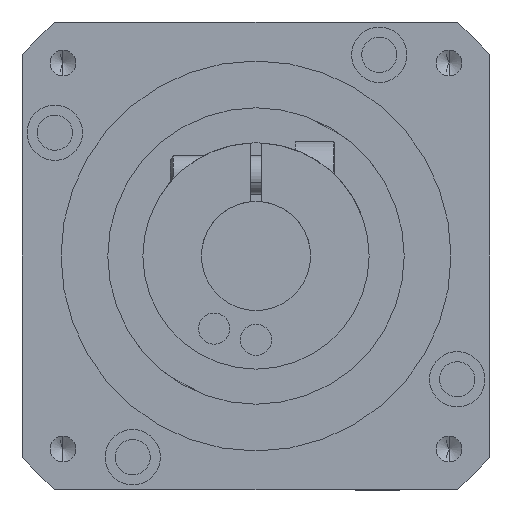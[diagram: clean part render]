
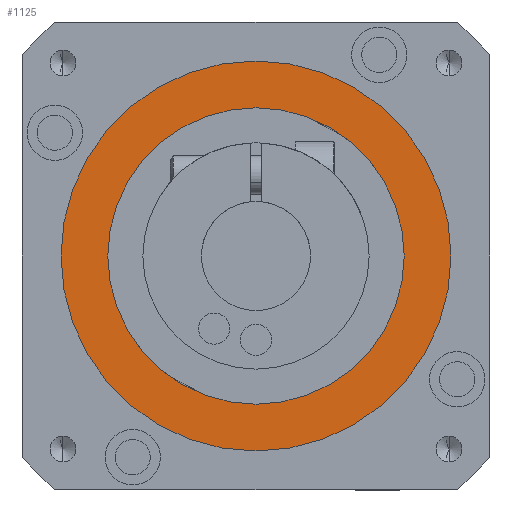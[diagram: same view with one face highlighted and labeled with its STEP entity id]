
A CAD part, front view. The second image highlights one B-rep face of the part: STEP entity #1125.
In plain terms, the highlighted planar face has unit normal (0, -1, 0).
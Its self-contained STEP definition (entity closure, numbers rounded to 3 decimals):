
#330 = AXIS2_PLACEMENT_3D ( 'NONE', #5792, #7055, #1237 ) ;
#465 = EDGE_CURVE ( 'NONE', #6485, #6586, #4007, .T. ) ;
#560 = CARTESIAN_POINT ( 'NONE',  ( 0., -36., 0. ) ) ;
#858 = DIRECTION ( 'NONE',  ( 0., 1., 0. ) ) ;
#1032 = AXIS2_PLACEMENT_3D ( 'NONE', #2845, #4142, #3532 ) ;
#1125 = ADVANCED_FACE ( 'NONE', ( #8337, #3181 ), #8429, .F. ) ;
#1237 = DIRECTION ( 'NONE',  ( 0., 0., 1. ) ) ;
#1263 = EDGE_LOOP ( 'NONE', ( #6752, #5246 ) ) ;
#1543 = DIRECTION ( 'NONE',  ( 0., -1., 0. ) ) ;
#1899 = AXIS2_PLACEMENT_3D ( 'NONE', #560, #4600, #2560 ) ;
#2020 = CIRCLE ( 'NONE', #2580, 19. ) ;
#2363 = VERTEX_POINT ( 'NONE', #6364 ) ;
#2560 = DIRECTION ( 'NONE',  ( 0., 0., 1. ) ) ;
#2580 = AXIS2_PLACEMENT_3D ( 'NONE', #2792, #858, #7334 ) ;
#2792 = CARTESIAN_POINT ( 'NONE',  ( 0., -36., 0. ) ) ;
#2845 = CARTESIAN_POINT ( 'NONE',  ( 0., -36., 0. ) ) ;
#2890 = CIRCLE ( 'NONE', #1899, 19. ) ;
#3018 = AXIS2_PLACEMENT_3D ( 'NONE', #3590, #1543, #4246 ) ;
#3181 = FACE_OUTER_BOUND ( 'NONE', #4129, .T. ) ;
#3532 = DIRECTION ( 'NONE',  ( 0., 0., 1. ) ) ;
#3590 = CARTESIAN_POINT ( 'NONE',  ( 0., -36., 0. ) ) ;
#4007 = CIRCLE ( 'NONE', #1032, 25. ) ;
#4129 = EDGE_LOOP ( 'NONE', ( #7643, #5586 ) ) ;
#4142 = DIRECTION ( 'NONE',  ( 0., -1., 0. ) ) ;
#4246 = DIRECTION ( 'NONE',  ( 0., 0., 1. ) ) ;
#4376 = VERTEX_POINT ( 'NONE', #8412 ) ;
#4600 = DIRECTION ( 'NONE',  ( 0., 1., 0. ) ) ;
#5246 = ORIENTED_EDGE ( 'NONE', *, *, #6677, .T. ) ;
#5499 = CIRCLE ( 'NONE', #3018, 25. ) ;
#5586 = ORIENTED_EDGE ( 'NONE', *, *, #7567, .T. ) ;
#5792 = CARTESIAN_POINT ( 'NONE',  ( 25., -36., 0. ) ) ;
#6364 = CARTESIAN_POINT ( 'NONE',  ( 0., -36., -19. ) ) ;
#6485 = VERTEX_POINT ( 'NONE', #7538 ) ;
#6586 = VERTEX_POINT ( 'NONE', #6994 ) ;
#6677 = EDGE_CURVE ( 'NONE', #2363, #4376, #2890, .T. ) ;
#6752 = ORIENTED_EDGE ( 'NONE', *, *, #7460, .T. ) ;
#6994 = CARTESIAN_POINT ( 'NONE',  ( 0., -36., -25. ) ) ;
#7055 = DIRECTION ( 'NONE',  ( 0., 1., 0. ) ) ;
#7334 = DIRECTION ( 'NONE',  ( 0., 0., 1. ) ) ;
#7460 = EDGE_CURVE ( 'NONE', #4376, #2363, #2020, .T. ) ;
#7538 = CARTESIAN_POINT ( 'NONE',  ( 0., -36., 25. ) ) ;
#7567 = EDGE_CURVE ( 'NONE', #6586, #6485, #5499, .T. ) ;
#7643 = ORIENTED_EDGE ( 'NONE', *, *, #465, .T. ) ;
#8337 = FACE_BOUND ( 'NONE', #1263, .T. ) ;
#8412 = CARTESIAN_POINT ( 'NONE',  ( 0., -36., 19. ) ) ;
#8429 = PLANE ( 'NONE',  #330 ) ;
